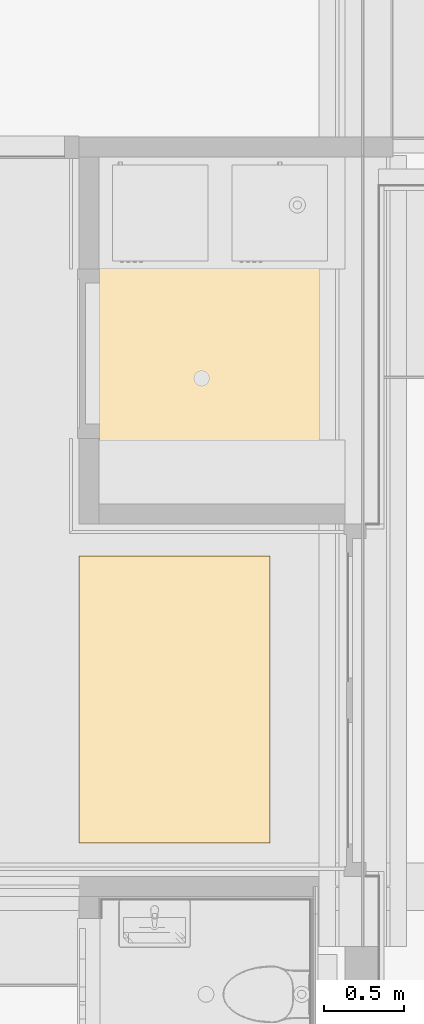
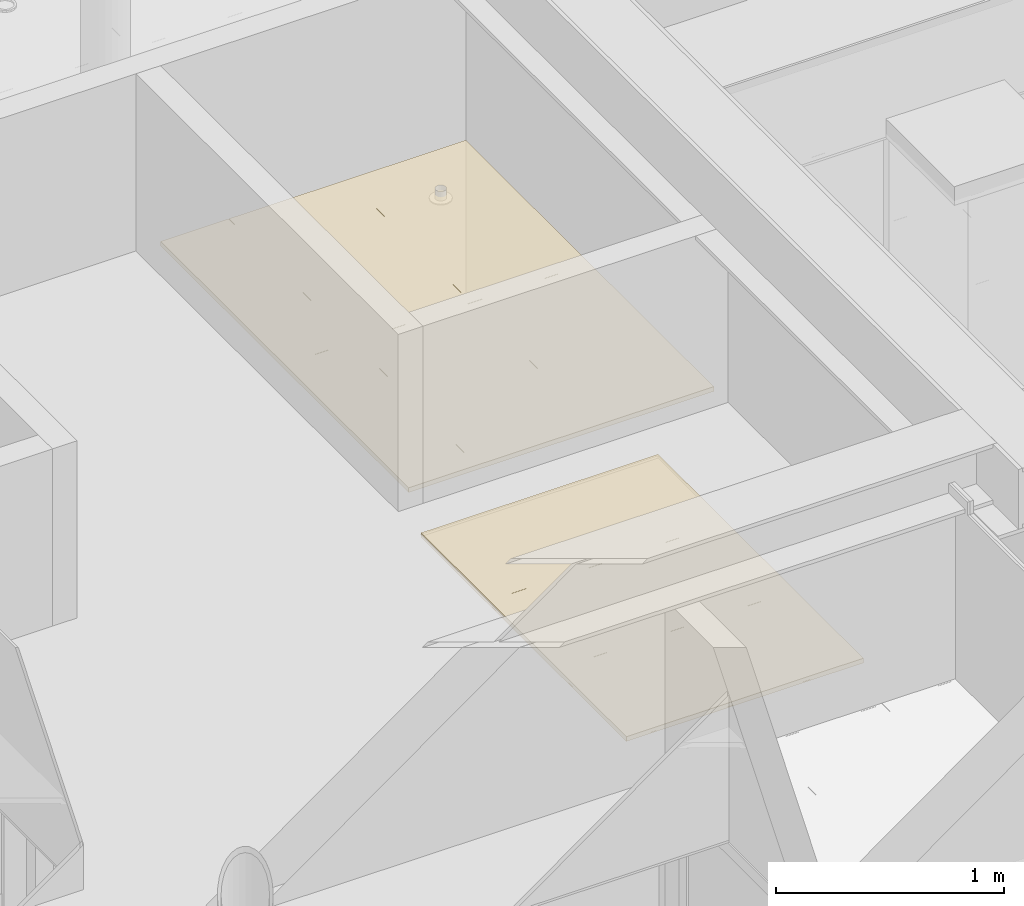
# One storey, part 166 of 347: 2 coverings.
"""IFC2X3 building model written with IfcOpenShell, lengths in millimetres."""

from ifc_helpers import new_model, entity, si_unit, converted_unit, derived_unit, money_unit, direction, frame, origin_with_axes, place, context, subcontext, project, spatial, faceted_brep, type_object, element, save


model = new_model("IFC2X3")

# Units and contexts
model_context = context("Model", 3, precision=0.01, world=origin_with_axes(), true_north=direction((0.0, 1.0)))
plan_context = context("Plan", 3, precision=0.01, world=origin_with_axes(), true_north=direction((0.0, 1.0)))
body_context = subcontext(model_context, "Body", "Model", "MODEL_VIEW")
ifc_project = project(units=[si_unit("LENGTHUNIT", "METRE", prefix="MILLI"), si_unit("AREAUNIT", "SQUARE_METRE"), si_unit("VOLUMEUNIT", "CUBIC_METRE"), converted_unit("PLANEANGLEUNIT", "DEGREE", entity("IfcPlaneAngleMeasure", 0.0174532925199), si_unit("PLANEANGLEUNIT", "RADIAN"), dimensions=[0, 0, 0, 0, 0, 0, 0]), money_unit("EUR"), converted_unit("TIMEUNIT", "Year", entity("IfcTimeMeasure", 31556926.0), si_unit("TIMEUNIT", "SECOND"), dimensions=[0, 0, 1, 0, 0, 0, 0]), si_unit("MASSUNIT", "GRAM", prefix="KILO"), si_unit("THERMODYNAMICTEMPERATUREUNIT", "DEGREE_CELSIUS"), si_unit("LUMINOUSINTENSITYUNIT", "LUMEN"), si_unit("ENERGYUNIT", "JOULE", prefix="MEGA"), derived_unit("THERMALCONDUCTANCEUNIT", [(si_unit("POWERUNIT", "WATT"), 1), (si_unit("LENGTHUNIT", "METRE"), -1), (si_unit("THERMODYNAMICTEMPERATUREUNIT", "KELVIN"), -1)]), derived_unit("SPECIFICHEATCAPACITYUNIT", [(si_unit("ENERGYUNIT", "JOULE"), 1), (si_unit("MASSUNIT", "GRAM", prefix="KILO"), -1), (si_unit("THERMODYNAMICTEMPERATUREUNIT", "KELVIN"), -1)]), derived_unit("MASSDENSITYUNIT", [(si_unit("MASSUNIT", "GRAM", prefix="KILO"), 1), (si_unit("VOLUMEUNIT", "CUBIC_METRE"), -1)])], contexts=[model_context, plan_context])

# Site, building, storey
site_placement = place(None, origin_with_axes())
site = spatial("IfcSite", under=ifc_project, at=site_placement, Name="Site", CompositionType="ELEMENT")
building_placement = place(site_placement, origin_with_axes())
building = spatial("IfcBuilding", under=site, at=building_placement, Name="Naam gebouw", CompositionType="ELEMENT")
storey_placement = place(building_placement, origin_with_axes())
storey = spatial("IfcBuildingStorey", under=building, at=storey_placement, Name="begane grond", CompositionType="ELEMENT", Elevation=0.0)

# Coverings
covering_type = type_object("IfcCoveringType", Name="Ceiling Editor INT_v2.01", PredefinedType="CEILING")
covering_1_placement = place(storey_placement, frame((33950.0, 14525.0, 2600.0), z_axis=(0.0, 0.0, 1.0), x_axis=(1.0, 0.0, 0.0)))
element("IfcCovering", 1, at=covering_1_placement, inside=storey, type_object=covering_type, Name="45 Plafondafwerkingen_77 garderobe", PredefinedType="CEILING", context=body_context, shape_type="Brep", body=[
    faceted_brep([(0.0, 0.0, 20.0), (344.899999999, 0.0, 20.0), (344.899999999, 1087.39998456, 20.0), (0.0, 1087.39998456, 20.0), (0.0, 543.749992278, 20.0), (0.0, 0.0, 0.0), (344.899999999, 0.0, 0.0), (344.899999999, 1087.39998456, 0.0), (0.0, 1087.39998456, 0.0), (0.0, 543.749992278, 0.0)], [[[0, 1, 2, 3, 4]], [[1, 0, 5, 6]], [[1, 6, 7, 2]], [[8, 3, 2, 7]], [[3, 8, 9, 4]], [[0, 4, 9, 5]], [[9, 8, 7, 6, 5]]]),
    faceted_brep([(344.899999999, 2174.99996911, 0.0), (344.899999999, 2174.99996911, 20.0), (344.899999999, 1087.59998456, 20.0), (344.899999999, 1087.59998456, 0.0), (0.0, 2174.99996911, 0.0), (0.0, 2174.99996911, 20.0), (0.0, 1631.24997684, 20.0), (0.0, 1087.59998456, 20.0), (0.0, 1087.59998456, 0.0), (0.0, 1631.24997684, 0.0)], [[[0, 1, 2, 3]], [[1, 0, 4, 5]], [[6, 7, 2, 1, 5]], [[7, 8, 3, 2]], [[4, 0, 3, 8, 9]], [[6, 5, 4, 9]], [[7, 6, 9, 8]]]),
    faceted_brep([(772.5, 0.0, 20.0), (944.899999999, 0.0, 20.0), (944.899999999, 1087.39998456, 20.0), (345.099999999, 1087.39998456, 20.0), (345.099999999, 0.0, 20.0), (386.25, 0.0, 20.0), (772.5, 0.0, 0.0), (944.899999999, 0.0, 0.0), (944.899999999, 1087.39998456, 0.0), (345.099999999, 1087.39998456, 0.0), (345.099999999, 0.0, 0.0), (386.25, 0.0, 0.0)], [[[0, 1, 2, 3, 4, 5]], [[1, 0, 6, 7]], [[1, 7, 8, 2]], [[2, 8, 9, 3]], [[10, 4, 3, 9]], [[5, 4, 10, 11]], [[0, 5, 11, 6]], [[11, 10, 9, 8, 7, 6]]]),
    faceted_brep([(944.899999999, 2174.99996911, 0.0), (944.899999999, 2174.99996911, 20.0), (944.899999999, 1087.59998456, 20.0), (944.899999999, 1087.59998456, 0.0), (772.5, 2174.99996911, 0.0), (772.5, 2174.99996911, 20.0), (386.25, 2174.99996911, 20.0), (345.099999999, 2174.99996911, 20.0), (345.099999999, 1087.59998456, 20.0), (345.099999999, 1087.59998456, 0.0), (345.099999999, 2174.99996911, 0.0), (386.25, 2174.99996911, 0.0)], [[[0, 1, 2, 3]], [[1, 0, 4, 5]], [[6, 7, 8, 2, 1, 5]], [[8, 9, 3, 2]], [[4, 0, 3, 9, 10, 11]], [[6, 5, 4, 11]], [[7, 6, 11, 10]], [[7, 10, 9, 8]]]),
    faceted_brep([(1158.75, 0.0, 20.0), (1544.9, 0.0, 20.0), (1544.9, 1087.39998456, 20.0), (945.099999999, 1087.39998456, 20.0), (945.099999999, 0.0, 20.0), (1158.75, 0.0, 0.0), (1544.9, 0.0, 0.0), (1544.9, 1087.39998456, 0.0), (945.099999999, 1087.39998456, 0.0), (945.099999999, 0.0, 0.0)], [[[0, 1, 2, 3, 4]], [[1, 0, 5, 6]], [[1, 6, 7, 2]], [[2, 7, 8, 3]], [[9, 4, 3, 8]], [[0, 4, 9, 5]], [[5, 9, 8, 7, 6]]]),
    faceted_brep([(1544.9, 2174.99996911, 0.0), (1544.9, 2174.99996911, 20.0), (1544.9, 1087.59998456, 20.0), (1544.9, 1087.59998456, 0.0), (1158.75, 2174.99996911, 0.0), (1158.75, 2174.99996911, 20.0), (945.099999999, 2174.99996911, 20.0), (945.099999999, 1087.59998456, 20.0), (945.099999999, 1087.59998456, 0.0), (945.099999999, 2174.99996911, 0.0)], [[[0, 1, 2, 3]], [[1, 0, 4, 5]], [[5, 6, 7, 2, 1]], [[7, 8, 3, 2]], [[4, 0, 3, 8, 9]], [[6, 5, 4, 9]], [[6, 9, 8, 7]]]),
    faceted_brep([(1545.0, 0.0, -5.0), (1545.0, 543.749992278, -5.0), (1545.0, 543.749992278, 0.0), (1545.0, 0.0, 0.0), (357.499999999, 0.0, -5.0), (332.499999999, 0.0, -5.0), (0.0, 0.0, -5.0), (0.0, 1074.99998456, -5.0), (0.0, 1087.49998456, -5.0), (0.0, 1099.99998456, -5.0), (0.0, 2174.99996911, -5.0), (332.499999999, 2174.99996911, -5.0), (357.499999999, 2174.99996911, -5.0), (932.499999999, 2174.99996911, -5.0), (957.499999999, 2174.99996911, -5.0), (1532.5, 2174.99996911, -5.0), (1545.0, 2174.99996911, -5.0), (1545.0, 1631.24997684, -5.0), (1545.0, 1087.49998456, -5.0), (1532.5, 0.0, -5.0), (957.499999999, 0.0, -5.0), (932.499999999, 0.0, -5.0), (25.0, 1074.99998456, -5.0), (25.0, 25.0, -5.0), (332.499999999, 25.0, -5.0), (332.499999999, 1074.99998456, -5.0), (332.499999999, 2149.99996911, -5.0), (25.0, 2149.99996911, -5.0), (25.0, 1099.99998456, -5.0), (332.499999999, 1099.99998456, -5.0), (932.499999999, 2149.99996911, -5.0), (357.499999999, 2149.99996911, -5.0), (357.499999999, 1099.99998456, -5.0), (932.499999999, 1099.99998456, -5.0), (1520.0, 2149.99996911, -5.0), (957.499999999, 2149.99996911, -5.0), (957.499999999, 1099.99998456, -5.0), (1520.0, 1099.99998456, -5.0), (1520.0, 25.0, -5.0), (1520.0, 1074.99998456, -5.0), (957.499999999, 1074.99998456, -5.0), (957.499999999, 25.0, -5.0), (932.499999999, 25.0, -5.0), (932.499999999, 1074.99998456, -5.0), (357.499999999, 1074.99998456, -5.0), (357.499999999, 25.0, -5.0), (1545.0, 1087.49998456, 0.0), (932.499999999, 0.0, 0.0), (957.499999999, 0.0, 0.0), (1532.5, 0.0, 0.0), (1545.0, 1631.24997684, 0.0), (1545.0, 2174.99996911, 0.0), (1532.5, 2174.99996911, 0.0), (957.499999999, 2174.99996911, 0.0), (932.499999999, 2174.99996911, 0.0), (357.499999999, 2174.99996911, 0.0), (332.499999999, 2174.99996911, 0.0), (0.0, 2174.99996911, 0.0), (0.0, 1099.99998456, 0.0), (0.0, 1087.49998456, 0.0), (0.0, 1074.99998456, 0.0), (0.0, 0.0, 0.0), (332.499999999, 0.0, 0.0), (357.499999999, 0.0, 0.0), (25.0, 1074.99998456, 0.0), (332.499999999, 1074.99998456, 0.0), (332.499999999, 25.0, 0.0), (25.0, 25.0, 0.0), (332.499999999, 2149.99996911, 0.0), (332.499999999, 1099.99998456, 0.0), (25.0, 1099.99998456, 0.0), (25.0, 2149.99996911, 0.0), (932.499999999, 2149.99996911, 0.0), (932.499999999, 1099.99998456, 0.0), (357.499999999, 1099.99998456, 0.0), (357.499999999, 2149.99996911, 0.0), (1520.0, 1099.99998456, 0.0), (957.499999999, 1099.99998456, 0.0), (957.499999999, 2149.99996911, 0.0), (1520.0, 2149.99996911, 0.0), (957.499999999, 25.0, 0.0), (957.499999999, 1074.99998456, 0.0), (1520.0, 1074.99998456, 0.0), (1520.0, 25.0, 0.0), (357.499999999, 25.0, 0.0), (357.499999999, 1074.99998456, 0.0), (932.499999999, 1074.99998456, 0.0), (932.499999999, 25.0, 0.0)], [[[0, 1, 2, 3]], [[4, 5, 6, 7, 8, 9, 10, 11, 12, 13, 14, 15, 16, 17, 18, 1, 0, 19, 20, 21], [22, 23, 24, 25], [26, 27, 28, 29], [30, 31, 32, 33], [34, 35, 36, 37], [38, 39, 40, 41], [42, 43, 44, 45]], [[1, 18, 46, 2]], [[47, 48, 49, 3, 2, 46, 50, 51, 52, 53, 54, 55, 56, 57, 58, 59, 60, 61, 62, 63], [64, 65, 66, 67], [68, 69, 70, 71], [72, 73, 74, 75], [76, 77, 78, 79], [80, 81, 82, 83], [84, 85, 86, 87]], [[4, 21, 20, 19, 0, 3, 49, 48, 47, 63, 62, 61, 6, 5]], [[60, 59, 8, 7, 6, 61]], [[57, 10, 9, 8, 59, 58]], [[52, 51, 16, 15, 14, 13, 12, 11, 10, 57, 56, 55, 54, 53]], [[17, 16, 51, 50]], [[18, 17, 50, 46]], [[22, 64, 67, 23]], [[23, 67, 66, 24]], [[24, 66, 65, 25]], [[64, 22, 25, 65]], [[26, 68, 71, 27]], [[27, 71, 70, 28]], [[28, 70, 69, 29]], [[68, 26, 29, 69]], [[30, 72, 75, 31]], [[31, 75, 74, 32]], [[74, 73, 33, 32]], [[72, 30, 33, 73]], [[34, 79, 78, 35]], [[35, 78, 77, 36]], [[76, 37, 36, 77]], [[76, 79, 34, 37]], [[38, 83, 82, 39]], [[39, 82, 81, 40]], [[80, 41, 40, 81]], [[80, 83, 38, 41]], [[42, 87, 86, 43]], [[44, 43, 86, 85]], [[84, 45, 44, 85]], [[84, 87, 42, 45]]]),
])
covering_2_placement = place(storey_placement, frame((33825.0, 12400.0, 2600.0), z_axis=(0.0, 0.0, 1.0), x_axis=(1.0, 0.0, 0.0)))
element("IfcCovering", 2, at=covering_2_placement, inside=storey, type_object=covering_type, Name="45 Plafondafwerkingen_77 garderobe", PredefinedType="CEILING", context=body_context, shape_type="Brep", body=[
    faceted_brep([(1199.9, 0.1, 20.0), (1199.9, 0.1, 0.0), (1199.9, 599.9, 0.0), (1199.9, 599.9, 20.0), (0.1, 0.1, 20.0), (0.1, 0.1, 0.0), (0.1, 599.9, 0.0), (0.1, 599.9, 20.0)], [[[0, 1, 2, 3]], [[4, 5, 1, 0]], [[2, 1, 5, 6]], [[3, 2, 6, 7]], [[4, 0, 3, 7]], [[7, 6, 5, 4]]]),
    faceted_brep([(1199.9, 600.1, 20.0), (1199.9, 600.1, 0.0), (1199.9, 1199.9, 0.0), (1199.9, 1199.9, 20.0), (0.1, 600.1, 20.0), (0.1, 600.1, 0.0), (0.1, 1199.9, 0.0), (0.1, 1199.9, 20.0)], [[[0, 1, 2, 3]], [[4, 5, 1, 0]], [[2, 1, 5, 6]], [[3, 2, 6, 7]], [[4, 0, 3, 7]], [[7, 6, 5, 4]]]),
    faceted_brep([(1199.9, 1200.1, 20.0), (1199.9, 1200.1, 0.0), (1199.9, 1799.9, 0.0), (1199.9, 1799.9, 20.0), (0.1, 1200.1, 20.0), (0.1, 1200.1, 0.0), (0.1, 1799.9, 0.0), (0.1, 1799.9, 20.0)], [[[0, 1, 2, 3]], [[4, 5, 1, 0]], [[2, 1, 5, 6]], [[3, 2, 6, 7]], [[4, 0, 3, 7]], [[7, 6, 5, 4]]]),
    faceted_brep([(1200.0, 0.0, -5.0), (900.0, 0.0, -5.0), (600.0, 0.0, -5.0), (300.0, 0.0, -5.0), (0.0, 0.0, -5.0), (0.0, 450.0, -5.0), (0.0, 900.0, -5.0), (0.0, 1350.0, -5.0), (0.0, 1800.0, -5.0), (300.0, 1800.0, -5.0), (600.0, 1800.0, -5.0), (900.0, 1800.0, -5.0), (1200.0, 1800.0, -5.0), (1200.0, 1350.0, -5.0), (1200.0, 900.0, -5.0), (1200.0, 450.0, -5.0), (1175.0, 1187.5, -5.0), (25.0, 1187.5, -5.0), (25.0, 612.5, -5.0), (1175.0, 612.5, -5.0), (1175.0, 25.0, -5.0), (1175.0, 587.5, -5.0), (25.0, 587.5, -5.0), (25.0, 25.0, -5.0), (1175.0, 1775.0, -5.0), (25.0, 1775.0, -5.0), (25.0, 1212.5, -5.0), (1175.0, 1212.5, -5.0), (900.0, 0.0, 0.0), (1200.0, 0.0, 0.0), (600.0, 0.0, 0.0), (300.0, 0.0, 0.0), (0.0, 0.0, 0.0), (0.0, 450.0, 0.0), (0.0, 900.0, 0.0), (0.0, 1350.0, 0.0), (0.0, 1800.0, 0.0), (300.0, 1800.0, 0.0), (600.0, 1800.0, 0.0), (900.0, 1800.0, 0.0), (1200.0, 1800.0, 0.0), (1200.0, 1350.0, 0.0), (1200.0, 900.0, 0.0), (1200.0, 450.0, 0.0), (1175.0, 1187.5, 0.0), (25.0, 1187.5, 0.0), (25.0, 612.5, 0.0), (1175.0, 612.5, 0.0), (1175.0, 25.0, 0.0), (1175.0, 587.5, 0.0), (25.0, 587.5, 0.0), (25.0, 25.0, 0.0), (1175.0, 1775.0, 0.0), (25.0, 1775.0, 0.0), (25.0, 1212.5, 0.0), (1175.0, 1212.5, 0.0)], [[[0, 1, 2, 3, 4, 5, 6, 7, 8, 9, 10, 11, 12, 13, 14, 15], [16, 17, 18, 19], [20, 21, 22, 23], [24, 25, 26, 27]], [[28, 1, 0, 29]], [[2, 1, 28, 30]], [[3, 2, 30, 31]], [[3, 31, 32, 4]], [[5, 4, 32, 33]], [[6, 5, 33, 34]], [[7, 6, 34, 35]], [[8, 7, 35, 36]], [[9, 8, 36, 37]], [[10, 9, 37, 38]], [[11, 10, 38, 39]], [[39, 40, 12, 11]], [[13, 12, 40, 41]], [[14, 13, 41, 42]], [[15, 14, 42, 43]], [[0, 15, 43, 29]], [[16, 44, 45, 17]], [[17, 45, 46, 18]], [[47, 19, 18, 46]], [[47, 44, 16, 19]], [[20, 48, 49, 21]], [[21, 49, 50, 22]], [[22, 50, 51, 23]], [[51, 48, 20, 23]], [[24, 52, 53, 25]], [[25, 53, 54, 26]], [[55, 27, 26, 54]], [[55, 52, 24, 27]], [[28, 29, 43, 42, 41, 40, 39, 38, 37, 36, 35, 34, 33, 32, 31, 30], [55, 54, 53, 52], [51, 50, 49, 48], [47, 46, 45, 44]]]),
])

save(model, "model.ifc")
